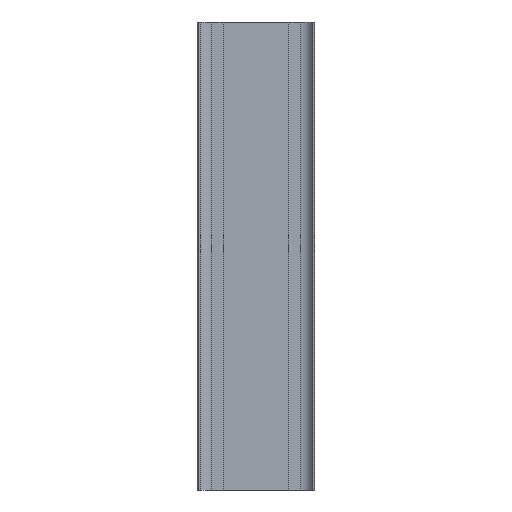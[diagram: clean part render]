
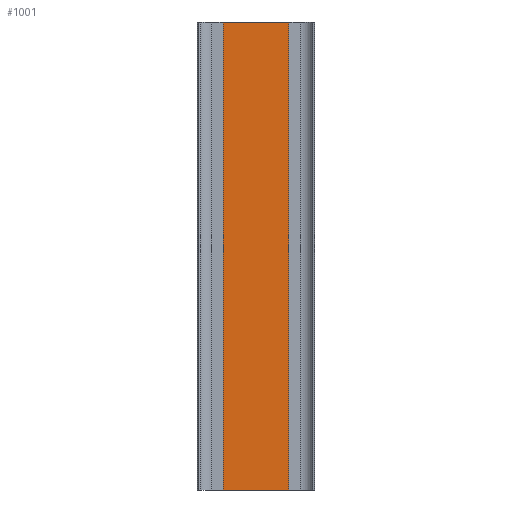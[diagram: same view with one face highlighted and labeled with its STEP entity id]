
A CAD part, front view. The second image highlights one B-rep face of the part: STEP entity #1001.
In plain terms, the highlighted planar face has unit normal (0, -1, 0).
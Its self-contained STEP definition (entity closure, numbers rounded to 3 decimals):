
#55 = CARTESIAN_POINT ( 'NONE',  ( 7., 12.7, 0. ) ) ;
#100 = CARTESIAN_POINT ( 'NONE',  ( -7., 12.7, 0. ) ) ;
#113 = VERTEX_POINT ( 'NONE', #55 ) ;
#145 = ORIENTED_EDGE ( 'NONE', *, *, #231, .F. ) ;
#184 = DIRECTION ( 'NONE',  ( 0., 0., 1. ) ) ;
#201 = LINE ( 'NONE', #100, #1110 ) ;
#231 = EDGE_CURVE ( 'NONE', #113, #889, #991, .T. ) ;
#261 = DIRECTION ( 'NONE',  ( -1., 0., 0. ) ) ;
#343 = ORIENTED_EDGE ( 'NONE', *, *, #410, .F. ) ;
#396 = CARTESIAN_POINT ( 'NONE',  ( 7., 12.7, 100. ) ) ;
#410 = EDGE_CURVE ( 'NONE', #889, #522, #201, .T. ) ;
#413 = VECTOR ( 'NONE', #898, 1000. ) ;
#487 = FACE_OUTER_BOUND ( 'NONE', #1112, .T. ) ;
#507 = VECTOR ( 'NONE', #261, 1000. ) ;
#522 = VERTEX_POINT ( 'NONE', #934 ) ;
#531 = CARTESIAN_POINT ( 'NONE',  ( -7., 12.7, 0. ) ) ;
#563 = DIRECTION ( 'NONE',  ( 0., 0., 1. ) ) ;
#589 = LINE ( 'NONE', #1083, #1054 ) ;
#614 = CARTESIAN_POINT ( 'NONE',  ( -7., 12.7, 0. ) ) ;
#617 = DIRECTION ( 'NONE',  ( -1., 0., 0. ) ) ;
#626 = VERTEX_POINT ( 'NONE', #396 ) ;
#629 = PLANE ( 'NONE',  #838 ) ;
#838 = AXIS2_PLACEMENT_3D ( 'NONE', #1003, #1010, #184 ) ;
#889 = VERTEX_POINT ( 'NONE', #531 ) ;
#898 = DIRECTION ( 'NONE',  ( 0., 0., 1. ) ) ;
#908 = EDGE_CURVE ( 'NONE', #626, #522, #589, .T. ) ;
#934 = CARTESIAN_POINT ( 'NONE',  ( -7., 12.7, 100. ) ) ;
#982 = CARTESIAN_POINT ( 'NONE',  ( 7., 12.7, 0. ) ) ;
#991 = LINE ( 'NONE', #614, #507 ) ;
#1001 = ADVANCED_FACE ( 'NONE', ( #487 ), #629, .F. ) ;
#1003 = CARTESIAN_POINT ( 'NONE',  ( -7., 12.7, 0. ) ) ;
#1010 = DIRECTION ( 'NONE',  ( 0., 1., 0. ) ) ;
#1028 = LINE ( 'NONE', #982, #413 ) ;
#1054 = VECTOR ( 'NONE', #617, 1000. ) ;
#1062 = ORIENTED_EDGE ( 'NONE', *, *, #1087, .T. ) ;
#1083 = CARTESIAN_POINT ( 'NONE',  ( -7., 12.7, 100. ) ) ;
#1087 = EDGE_CURVE ( 'NONE', #113, #626, #1028, .T. ) ;
#1103 = ORIENTED_EDGE ( 'NONE', *, *, #908, .T. ) ;
#1110 = VECTOR ( 'NONE', #563, 1000. ) ;
#1112 = EDGE_LOOP ( 'NONE', ( #1103, #343, #145, #1062 ) ) ;
